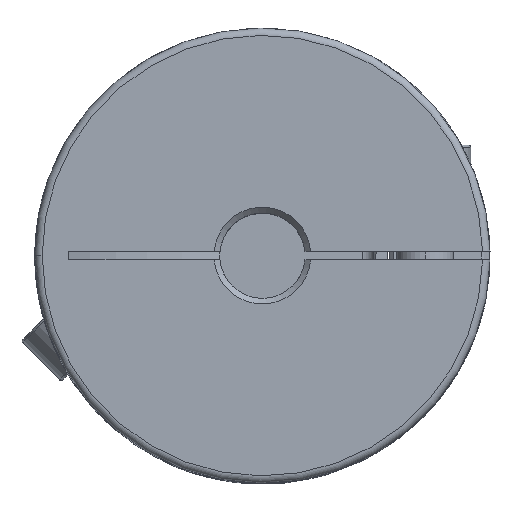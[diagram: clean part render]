
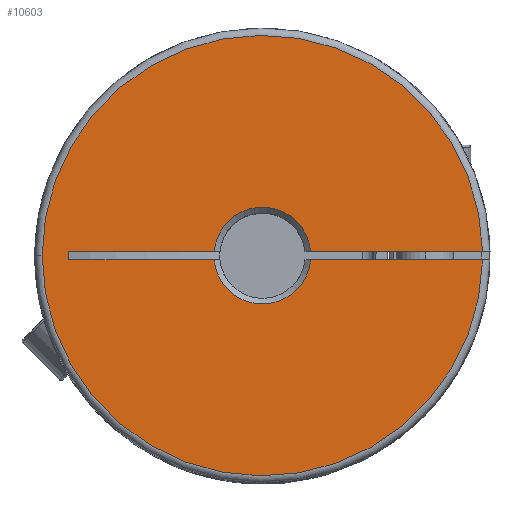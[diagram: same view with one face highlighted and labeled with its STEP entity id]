
A CAD part, top view. The second image highlights one B-rep face of the part: STEP entity #10603.
In plain terms, the highlighted planar face has unit normal (0, 0, 1).
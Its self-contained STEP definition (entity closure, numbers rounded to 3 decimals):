
#99 = CARTESIAN_POINT ( 'NONE',  ( 0., 0.75, 43.6 ) ) ;
#101 = DIRECTION ( 'NONE',  ( 1., 0., 0. ) ) ;
#829 = CARTESIAN_POINT ( 'NONE',  ( -34., -0.75, 43.6 ) ) ;
#832 = DIRECTION ( 'NONE',  ( 0., 1., 0. ) ) ;
#1626 = DIRECTION ( 'NONE',  ( 1., 0., 0. ) ) ;
#1651 = CARTESIAN_POINT ( 'NONE',  ( 0., -0.75, 43.6 ) ) ;
#1940 = FACE_OUTER_BOUND ( 'NONE', #13902, .T. ) ;
#3104 = EDGE_CURVE ( 'NONE', #8880, #8862, #12201, .T. ) ;
#3412 = DIRECTION ( 'NONE',  ( 1., 0., 0. ) ) ;
#3413 = CARTESIAN_POINT ( 'NONE',  ( 0., 0.75, 43.6 ) ) ;
#3927 = EDGE_CURVE ( 'NONE', #9046, #9100, #12335, .T. ) ;
#3930 = EDGE_CURVE ( 'NONE', #8902, #8859, #12333, .T. ) ;
#3945 = EDGE_CURVE ( 'NONE', #8902, #9100, #12353, .T. ) ;
#3951 = EDGE_CURVE ( 'NONE', #8861, #9046, #12359, .T. ) ;
#4175 = EDGE_CURVE ( 'NONE', #8862, #8861, #12616, .T. ) ;
#4271 = EDGE_CURVE ( 'NONE', #8890, #8880, #12721, .T. ) ;
#4343 = EDGE_CURVE ( 'NONE', #8864, #8890, #12804, .T. ) ;
#4444 = EDGE_CURVE ( 'NONE', #8864, #8859, #12922, .T. ) ;
#5336 = ORIENTED_EDGE ( 'NONE', *, *, #4271, .T. ) ;
#5337 = ORIENTED_EDGE ( 'NONE', *, *, #3104, .T. ) ;
#5340 = ORIENTED_EDGE ( 'NONE', *, *, #3927, .T. ) ;
#5341 = ORIENTED_EDGE ( 'NONE', *, *, #3945, .F. ) ;
#5343 = ORIENTED_EDGE ( 'NONE', *, *, #4343, .T. ) ;
#5448 = ORIENTED_EDGE ( 'NONE', *, *, #4444, .F. ) ;
#5461 = ORIENTED_EDGE ( 'NONE', *, *, #3930, .T. ) ;
#5488 = ORIENTED_EDGE ( 'NONE', *, *, #4175, .T. ) ;
#5489 = ORIENTED_EDGE ( 'NONE', *, *, #3951, .T. ) ;
#5924 = AXIS2_PLACEMENT_3D ( 'NONE', #9893, #9892, #9356 ) ;
#5984 = AXIS2_PLACEMENT_3D ( 'NONE', #9249, #9422, #9427 ) ;
#5986 = AXIS2_PLACEMENT_3D ( 'NONE', #9431, #9429, #9433 ) ;
#5998 = AXIS2_PLACEMENT_3D ( 'NONE', #9481, #9269, #9523 ) ;
#6880 = AXIS2_PLACEMENT_3D ( 'NONE', #13222, #13225, #13226 ) ;
#8859 = VERTEX_POINT ( 'NONE', #11308 ) ;
#8861 = VERTEX_POINT ( 'NONE', #11310 ) ;
#8862 = VERTEX_POINT ( 'NONE', #11311 ) ;
#8864 = VERTEX_POINT ( 'NONE', #11313 ) ;
#8880 = VERTEX_POINT ( 'NONE', #11329 ) ;
#8890 = VERTEX_POINT ( 'NONE', #11339 ) ;
#8902 = VERTEX_POINT ( 'NONE', #11351 ) ;
#9046 = VERTEX_POINT ( 'NONE', #11497 ) ;
#9100 = VERTEX_POINT ( 'NONE', #11551 ) ;
#9249 = CARTESIAN_POINT ( 'NONE',  ( 0., 0., 43.6 ) ) ;
#9269 = DIRECTION ( 'NONE',  ( 0., 0., 1. ) ) ;
#9356 = DIRECTION ( 'NONE',  ( 0., 1., 0. ) ) ;
#9422 = DIRECTION ( 'NONE',  ( 0., 0., 1. ) ) ;
#9427 = DIRECTION ( 'NONE',  ( -1., 0., 0. ) ) ;
#9429 = DIRECTION ( 'NONE',  ( 0., 0., -1. ) ) ;
#9431 = CARTESIAN_POINT ( 'NONE',  ( 0., 0., 43.6 ) ) ;
#9433 = DIRECTION ( 'NONE',  ( 0., 1., 0. ) ) ;
#9481 = CARTESIAN_POINT ( 'NONE',  ( 0., 0., 43.6 ) ) ;
#9523 = DIRECTION ( 'NONE',  ( -1., 0., 0. ) ) ;
#9750 = CARTESIAN_POINT ( 'NONE',  ( 0., -0.75, 43.6 ) ) ;
#9814 = DIRECTION ( 'NONE',  ( 1., 0., 0. ) ) ;
#9892 = DIRECTION ( 'NONE',  ( 0., 0., -1. ) ) ;
#9893 = CARTESIAN_POINT ( 'NONE',  ( 0., 0., 43.6 ) ) ;
#10603 = ADVANCED_FACE ( 'NONE', ( #1940 ), #13224, .F. ) ;
#11308 = CARTESIAN_POINT ( 'NONE',  ( -8.467, -0.75, 43.6 ) ) ;
#11310 = CARTESIAN_POINT ( 'NONE',  ( 38.693, 0.75, 43.6 ) ) ;
#11311 = CARTESIAN_POINT ( 'NONE',  ( 8.467, 0.75, 43.6 ) ) ;
#11313 = CARTESIAN_POINT ( 'NONE',  ( -34., -0.75, 43.6 ) ) ;
#11329 = CARTESIAN_POINT ( 'NONE',  ( -8.467, 0.75, 43.6 ) ) ;
#11339 = CARTESIAN_POINT ( 'NONE',  ( -34., 0.75, 43.6 ) ) ;
#11351 = CARTESIAN_POINT ( 'NONE',  ( 8.467, -0.75, 43.6 ) ) ;
#11497 = CARTESIAN_POINT ( 'NONE',  ( -38.7, 0., 43.6 ) ) ;
#11551 = CARTESIAN_POINT ( 'NONE',  ( 38.693, -0.75, 43.6 ) ) ;
#12201 = CIRCLE ( 'NONE', #5924, 8.5 ) ;
#12333 = CIRCLE ( 'NONE', #5986, 8.5 ) ;
#12335 = CIRCLE ( 'NONE', #5984, 38.7 ) ;
#12353 = LINE ( 'NONE', #9750, #12358 ) ;
#12358 = VECTOR ( 'NONE', #9814, 1000. ) ;
#12359 = CIRCLE ( 'NONE', #5998, 38.7 ) ;
#12616 = LINE ( 'NONE', #3413, #12618 ) ;
#12618 = VECTOR ( 'NONE', #3412, 1000. ) ;
#12721 = LINE ( 'NONE', #99, #12723 ) ;
#12723 = VECTOR ( 'NONE', #101, 1000. ) ;
#12804 = LINE ( 'NONE', #829, #12806 ) ;
#12806 = VECTOR ( 'NONE', #832, 1000. ) ;
#12922 = LINE ( 'NONE', #1651, #12925 ) ;
#12925 = VECTOR ( 'NONE', #1626, 1000. ) ;
#13222 = CARTESIAN_POINT ( 'NONE',  ( 0., 0., 43.6 ) ) ;
#13224 = PLANE ( 'NONE',  #6880 ) ;
#13225 = DIRECTION ( 'NONE',  ( 0., 0., -1. ) ) ;
#13226 = DIRECTION ( 'NONE',  ( -1., 0., 0. ) ) ;
#13902 = EDGE_LOOP ( 'NONE', ( #5336, #5337, #5488, #5489, #5340, #5341, #5461, #5448, #5343 ) ) ;
